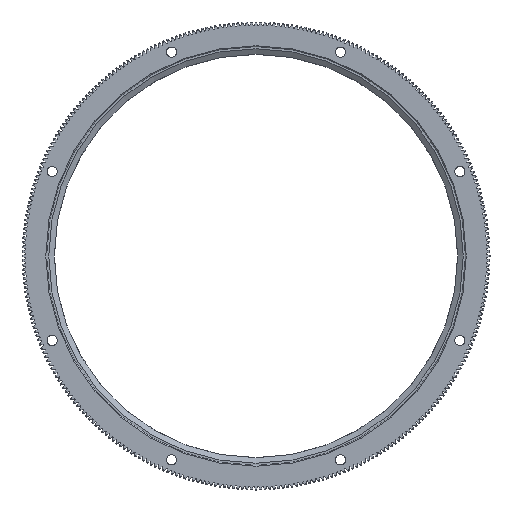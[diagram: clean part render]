
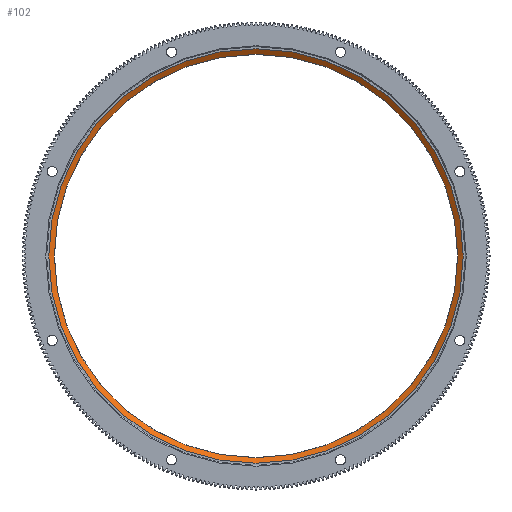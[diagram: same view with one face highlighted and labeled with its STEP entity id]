
A CAD part, front view. The second image highlights one B-rep face of the part: STEP entity #102.
In plain terms, the highlighted conical face has half-angle 55 degrees and reference radius 98.521 mm.
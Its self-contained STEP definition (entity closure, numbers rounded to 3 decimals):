
#102=ADVANCED_FACE('',(#2115,#2116),#2117,.F.);
#2115=FACE_OUTER_BOUND('',#6121,.T.);
#2116=FACE_BOUND('',#6122,.T.);
#2117=CONICAL_SURFACE('',#6123,98.521,0.96);
#6121=EDGE_LOOP('',(#13383));
#6122=EDGE_LOOP('',(#13384));
#6123=AXIS2_PLACEMENT_3D('',#13385,#13386,#13387);
#13383=ORIENTED_EDGE('',*,*,#31030,.T.);
#13384=ORIENTED_EDGE('',*,*,#31031,.F.);
#13385=CARTESIAN_POINT('',(0.0,7.576,0.0));
#13386=DIRECTION('',(0.0,-1.0,-0.0));
#13387=DIRECTION('',(0.0,0.0,-1.0));
#31030=EDGE_CURVE('',#40169,#40169,#40170,.T.);
#31031=EDGE_CURVE('',#40171,#40171,#40172,.T.);
#40169=VERTEX_POINT('',#52563);
#40170=CIRCLE('',#52564,101.057);
#40171=VERTEX_POINT('',#52565);
#40172=CIRCLE('',#52566,98.521);
#52563=CARTESIAN_POINT('',(0.0,5.8,-101.057));
#52564=AXIS2_PLACEMENT_3D('',#64023,#64024,#64025);
#52565=CARTESIAN_POINT('',(0.0,7.576,-98.521));
#52566=AXIS2_PLACEMENT_3D('',#64026,#64027,#64028);
#64023=CARTESIAN_POINT('',(0.0,5.8,0.0));
#64024=DIRECTION('',(0.0,-1.0,0.0));
#64025=DIRECTION('',(0.0,0.0,-1.0));
#64026=CARTESIAN_POINT('',(0.0,7.576,0.0));
#64027=DIRECTION('',(0.0,-1.0,0.0));
#64028=DIRECTION('',(0.0,0.0,-1.0));
